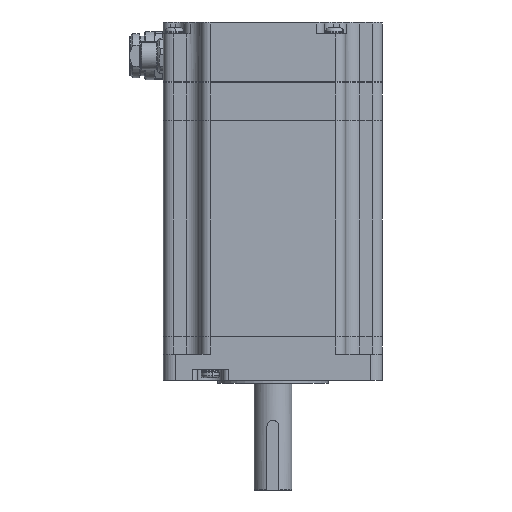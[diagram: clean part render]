
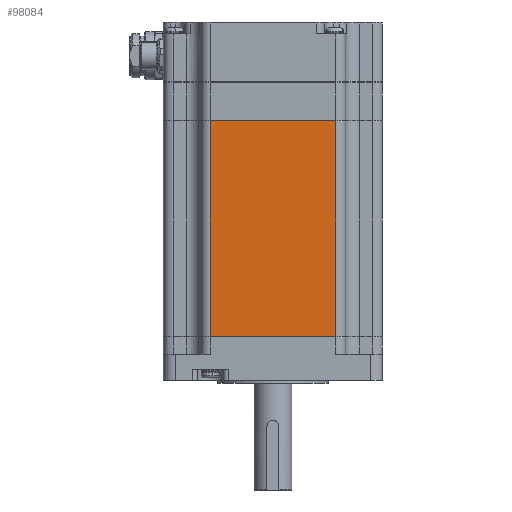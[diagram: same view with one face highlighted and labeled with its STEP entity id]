
A CAD part, front view. The second image highlights one B-rep face of the part: STEP entity #98084.
In plain terms, the highlighted planar face has unit normal (0, -1, 0).
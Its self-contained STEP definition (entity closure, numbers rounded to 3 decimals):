
#3567 = EDGE_CURVE ( 'NONE', #36753, #50293, #100938, .T. ) ;
#5790 = VECTOR ( 'NONE', #46567, 1000. ) ;
#11114 = CARTESIAN_POINT ( 'NONE',  ( 31.5, -55., 105.62 ) ) ;
#13617 = DIRECTION ( 'NONE',  ( 1., 0., 0. ) ) ;
#15447 = LINE ( 'NONE', #87601, #5790 ) ;
#16056 = AXIS2_PLACEMENT_3D ( 'NONE', #18682, #35828, #19756 ) ;
#18167 = PLANE ( 'NONE',  #16056 ) ;
#18682 = CARTESIAN_POINT ( 'NONE',  ( 31.5, -55., -2.8 ) ) ;
#19213 = FACE_OUTER_BOUND ( 'NONE', #43867, .T. ) ;
#19756 = DIRECTION ( 'NONE',  ( 1., 0., 0. ) ) ;
#19823 = CARTESIAN_POINT ( 'NONE',  ( 31.5, -55., -2.8 ) ) ;
#25873 = VECTOR ( 'NONE', #13617, 1000. ) ;
#30001 = ORIENTED_EDGE ( 'NONE', *, *, #3567, .T. ) ;
#33837 = EDGE_CURVE ( 'NONE', #89953, #50293, #86443, .T. ) ;
#35828 = DIRECTION ( 'NONE',  ( 0., -1., 0. ) ) ;
#36753 = VERTEX_POINT ( 'NONE', #49083 ) ;
#38701 = CARTESIAN_POINT ( 'NONE',  ( -31.5, -55., 105.62 ) ) ;
#39023 = DIRECTION ( 'NONE',  ( 0., 0., 1. ) ) ;
#39628 = ORIENTED_EDGE ( 'NONE', *, *, #33837, .F. ) ;
#43112 = EDGE_CURVE ( 'NONE', #87120, #36753, #45266, .T. ) ;
#43867 = EDGE_LOOP ( 'NONE', ( #39628, #95825, #98151, #30001 ) ) ;
#45266 = LINE ( 'NONE', #103870, #25873 ) ;
#46157 = CARTESIAN_POINT ( 'NONE',  ( -31.5, -55., -2.8 ) ) ;
#46567 = DIRECTION ( 'NONE',  ( 0., 0., 1. ) ) ;
#48513 = VECTOR ( 'NONE', #68332, 1000. ) ;
#49083 = CARTESIAN_POINT ( 'NONE',  ( 31.5, -55., -2.8 ) ) ;
#50293 = VERTEX_POINT ( 'NONE', #79003 ) ;
#68332 = DIRECTION ( 'NONE',  ( 1., 0., 0. ) ) ;
#77979 = EDGE_CURVE ( 'NONE', #87120, #89953, #15447, .T. ) ;
#79003 = CARTESIAN_POINT ( 'NONE',  ( 31.5, -55., 105.62 ) ) ;
#86443 = LINE ( 'NONE', #11114, #48513 ) ;
#87120 = VERTEX_POINT ( 'NONE', #46157 ) ;
#87601 = CARTESIAN_POINT ( 'NONE',  ( -31.5, -55., -2.8 ) ) ;
#89953 = VERTEX_POINT ( 'NONE', #38701 ) ;
#95825 = ORIENTED_EDGE ( 'NONE', *, *, #77979, .F. ) ;
#96555 = VECTOR ( 'NONE', #39023, 1000. ) ;
#98084 = ADVANCED_FACE ( 'NONE', ( #19213 ), #18167, .T. ) ;
#98151 = ORIENTED_EDGE ( 'NONE', *, *, #43112, .T. ) ;
#100938 = LINE ( 'NONE', #19823, #96555 ) ;
#103870 = CARTESIAN_POINT ( 'NONE',  ( 31.5, -55., -2.8 ) ) ;
